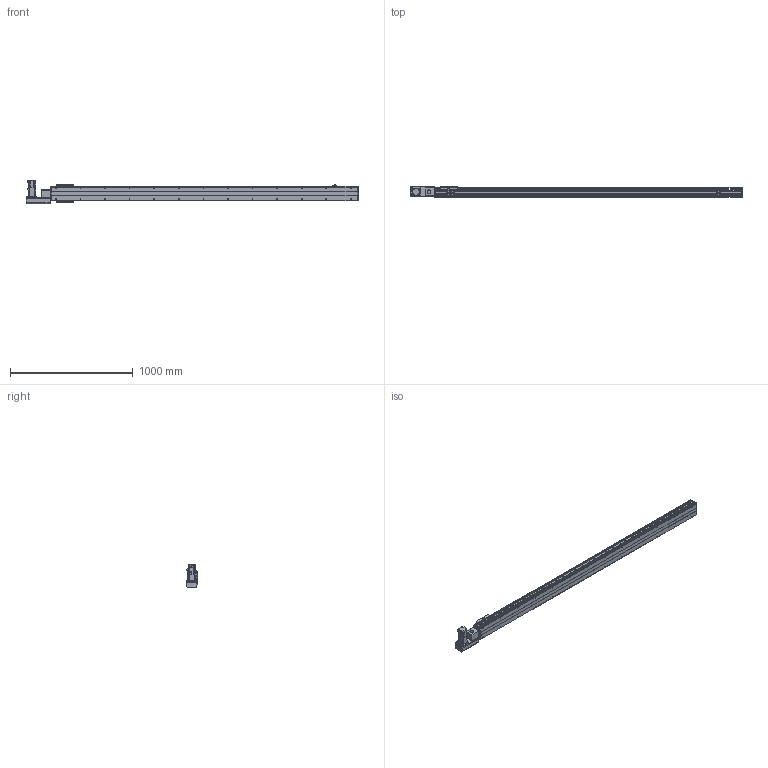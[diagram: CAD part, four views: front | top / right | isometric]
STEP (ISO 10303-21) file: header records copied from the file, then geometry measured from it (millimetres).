
FILE_DESCRIPTION( ( 'STEP AP214' ), '1' );
FILE_NAME( 'x:/temp/worker_26/temp/exporttempdir_3776_73_aE8sP/format_0/PBS120-P40-S2200-L-T40-C1-N(0).stp', '2022-06-05T00:28:21', ( 'License CC BY-ND 4.0' ), ( 'CADENAS' ), ' ', 'PARTsolutions', ' ' );
FILE_SCHEMA( ( 'AUTOMOTIVE_DESIGN { 1 0 10303 214 1 1 1 1 }' ) );
Length unit declared in the file: millimetre
Products named in the file (7): PBS120-P40-S2200-L-T40-C1-N(0); _PBS120-S2200()_body; _PBS120T-L_motors; _T40-p1; _PBS120_sliser; _PBS120_plant; _PBS120_sensor
Assembly tree (8 placements, depth 2):
  PBS120-P40-S2200-L-T40-C1-N(0)
    _PBS120-S2200()_body
    _PBS120T-L_motors
    _T40-p1
    _PBS120_sliser
    _PBS120_plant
    _PBS120_sensor  x3
Bounding box: 2701 x 83 x 189.7 mm (x, y, z)
Volume: 9867343.6 mm3; surface area: 2025451.3 mm2
Topology: 8 solids, 8 shells, 858 faces, 2206 edges, 1417 vertices
Faces by surface type: plane 559, cylinder 239, cone 58, torus 2
Full cylindrical faces by diameter (mm): 2.459 x6, 3.242 x4, 4 x2, 4.134 x4, 4.5 x10, 4.917 x30, 5.5 x11, 6 x2, 6.6 x1, 7 x2, 8.5 x4, 9 x4, 12 x1, 14 x1, 30 x2, 40 x1, 50 x2
Entity records: 28164 total; most frequent: DIRECTION 3860, CARTESIAN_POINT 3767, ORIENTED_EDGE 3562, EDGE_CURVE 1781, AXIS2_PLACEMENT_3D 1316, LINE 1228, VECTOR 1228, VERTEX_POINT 1223
